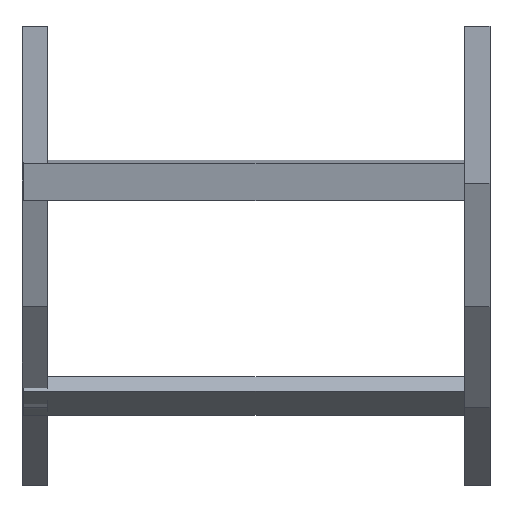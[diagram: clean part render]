
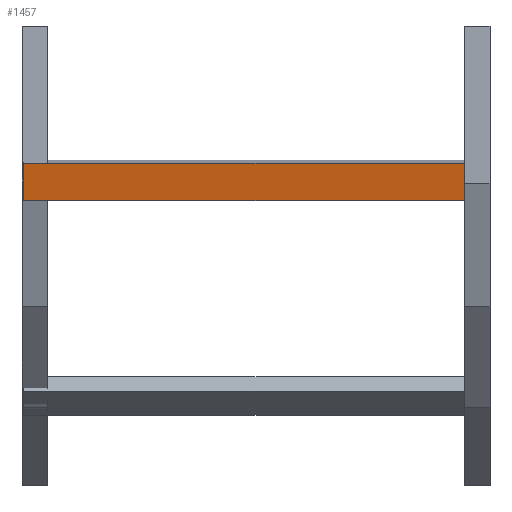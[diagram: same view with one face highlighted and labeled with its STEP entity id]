
A CAD part, front view. The second image highlights one B-rep face of the part: STEP entity #1457.
In plain terms, the highlighted planar face has unit normal (0, -0.985, -0.174) as drawn and (0, -1, 0) by its records, which use the part's own axes.
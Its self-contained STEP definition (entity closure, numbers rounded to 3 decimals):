
#117 = CARTESIAN_POINT ( 'NONE',  ( 248., 0., -20.25 ) ) ;
#226 = DIRECTION ( 'NONE',  ( 0., 0., 1. ) ) ;
#236 = FACE_OUTER_BOUND ( 'NONE', #953, .T. ) ;
#243 = CARTESIAN_POINT ( 'NONE',  ( 248., 0., 20.25 ) ) ;
#327 = ORIENTED_EDGE ( 'NONE', *, *, #467, .T. ) ;
#350 = VERTEX_POINT ( 'NONE', #511 ) ;
#406 = ORIENTED_EDGE ( 'NONE', *, *, #1195, .F. ) ;
#429 = VERTEX_POINT ( 'NONE', #1436 ) ;
#467 = EDGE_CURVE ( 'NONE', #698, #350, #1234, .T. ) ;
#511 = CARTESIAN_POINT ( 'NONE',  ( -248., 0., 20.25 ) ) ;
#612 = VECTOR ( 'NONE', #1169, 1000. ) ;
#698 = VERTEX_POINT ( 'NONE', #726 ) ;
#726 = CARTESIAN_POINT ( 'NONE',  ( 248., 0., 20.25 ) ) ;
#751 = VERTEX_POINT ( 'NONE', #1103 ) ;
#778 = ORIENTED_EDGE ( 'NONE', *, *, #1403, .T. ) ;
#842 = EDGE_CURVE ( 'NONE', #751, #429, #1028, .T. ) ;
#881 = VECTOR ( 'NONE', #1588, 1000. ) ;
#884 = LINE ( 'NONE', #243, #612 ) ;
#953 = EDGE_LOOP ( 'NONE', ( #778, #1382, #406, #327 ) ) ;
#1028 = LINE ( 'NONE', #117, #881 ) ;
#1041 = VECTOR ( 'NONE', #1099, 1000. ) ;
#1099 = DIRECTION ( 'NONE',  ( -1., 0., 0. ) ) ;
#1102 = CARTESIAN_POINT ( 'NONE',  ( -248., 0., 20.25 ) ) ;
#1103 = CARTESIAN_POINT ( 'NONE',  ( 248., 0., -20.25 ) ) ;
#1112 = CARTESIAN_POINT ( 'NONE',  ( 248., 0., 20.25 ) ) ;
#1169 = DIRECTION ( 'NONE',  ( 0., 0., -1. ) ) ;
#1195 = EDGE_CURVE ( 'NONE', #698, #751, #884, .T. ) ;
#1234 = LINE ( 'NONE', #1112, #1041 ) ;
#1271 = LINE ( 'NONE', #1102, #1427 ) ;
#1382 = ORIENTED_EDGE ( 'NONE', *, *, #842, .F. ) ;
#1388 = DIRECTION ( 'NONE',  ( 0., 0., -1. ) ) ;
#1403 = EDGE_CURVE ( 'NONE', #350, #429, #1271, .T. ) ;
#1427 = VECTOR ( 'NONE', #1388, 1000. ) ;
#1436 = CARTESIAN_POINT ( 'NONE',  ( -248., 0., -20.25 ) ) ;
#1457 = ADVANCED_FACE ( 'NONE', ( #236 ), #1631, .F. ) ;
#1530 = DIRECTION ( 'NONE',  ( 0., 1., 0. ) ) ;
#1577 = AXIS2_PLACEMENT_3D ( 'NONE', #1639, #1530, #226 ) ;
#1588 = DIRECTION ( 'NONE',  ( -1., 0., 0. ) ) ;
#1631 = PLANE ( 'NONE',  #1577 ) ;
#1639 = CARTESIAN_POINT ( 'NONE',  ( 248., 0., 20.25 ) ) ;
